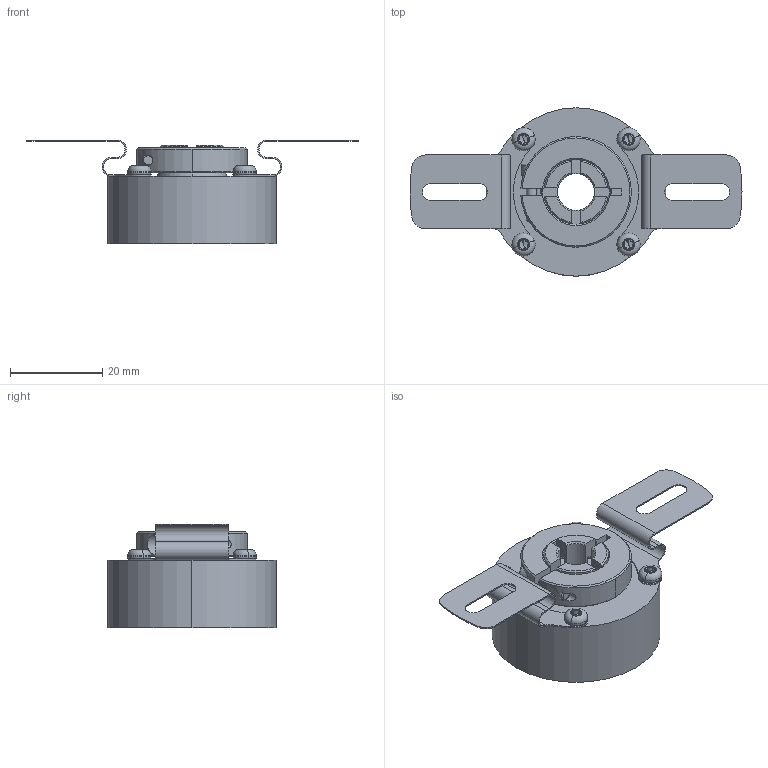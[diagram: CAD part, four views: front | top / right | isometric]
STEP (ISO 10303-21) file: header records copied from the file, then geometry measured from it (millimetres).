
FILE_DESCRIPTION (( 'STEP AP214' ), '1' );
FILE_NAME ('drawing-ucd-k8bd-q3a-n.STEP', '2017-01-18T08:46:12', ( '' ), ( '' ), 'SwSTEP 2.0', 'SolidWorks 2015', '' );
FILE_SCHEMA (( 'AUTOMOTIVE_DESIGN' ));
Length unit declared in the file: millimetre
Products named in the file (1): drawing-ucd-k8bd-q3a-n
Bounding box: 72 x 36.5 x 22.55 mm (x, y, z)
Volume: 14548.8 mm3; surface area: 18778.2 mm2
Topology: 30 solids, 31 shells, 615 faces, 1516 edges, 931 vertices
Faces by surface type: cylinder 183, cone 166, plane 144, bspline 78, torus 44
Entity records: 28108 total; most frequent: CARTESIAN_POINT 6667, DIRECTION 3182, ORIENTED_EDGE 2916, EDGE_CURVE 1458, AXIS2_PLACEMENT_3D 1370, VERTEX_POINT 931, CIRCLE 832, EDGE_LOOP 683
